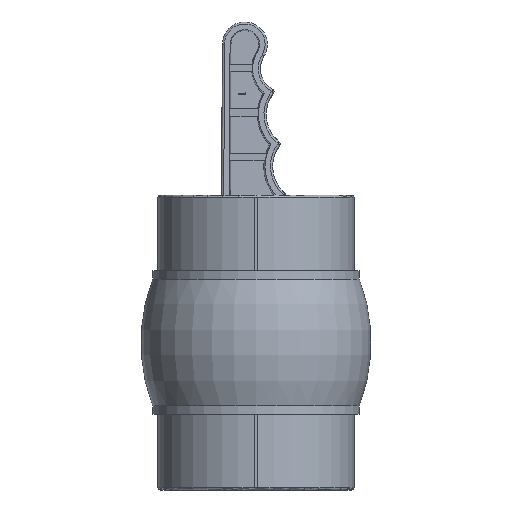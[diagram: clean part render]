
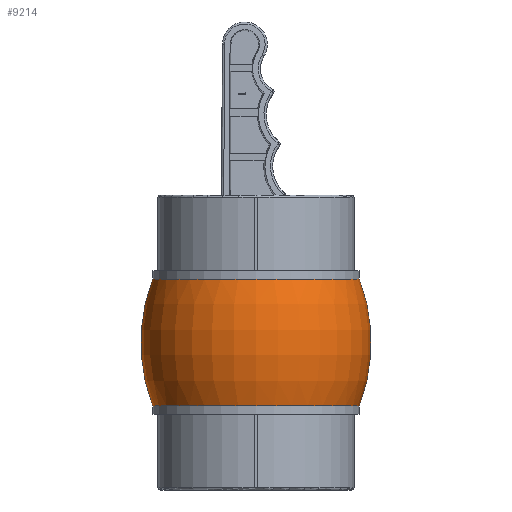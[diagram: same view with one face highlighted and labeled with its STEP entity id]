
A CAD part, front view. The second image highlights one B-rep face of the part: STEP entity #9214.
In plain terms, the highlighted toroidal (fillet/blend) face has major radius 27.589 mm and minor radius 79.089 mm.
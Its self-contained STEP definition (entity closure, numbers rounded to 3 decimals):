
#539 = CARTESIAN_POINT ( 'NONE',  ( 0., 0., 28.4 ) ) ;
#1419 = DIRECTION ( 'NONE',  ( -1., 0., 0. ) ) ;
#1862 = CARTESIAN_POINT ( 'NONE',  ( 46.225, 0., 28.4 ) ) ;
#1967 = CARTESIAN_POINT ( 'NONE',  ( 0., 0., -28.4 ) ) ;
#5607 = EDGE_CURVE ( 'NONE', #52693, #41399, #25660, .T. ) ;
#6320 = AXIS2_PLACEMENT_3D ( 'NONE', #22885, #47688, #18332 ) ;
#6515 = DIRECTION ( 'NONE',  ( 1., 0., 0. ) ) ;
#6694 = VERTEX_POINT ( 'NONE', #1862 ) ;
#7574 = FACE_OUTER_BOUND ( 'NONE', #46421, .T. ) ;
#8678 = ORIENTED_EDGE ( 'NONE', *, *, #5607, .F. ) ;
#9214 = ADVANCED_FACE ( 'NONE', ( #7574 ), #21803, .T. ) ;
#9984 = DIRECTION ( 'NONE',  ( 0., 0., 1. ) ) ;
#12012 = VERTEX_POINT ( 'NONE', #13722 ) ;
#13722 = CARTESIAN_POINT ( 'NONE',  ( 46.225, 0., -28.4 ) ) ;
#15024 = CARTESIAN_POINT ( 'NONE',  ( 0., 0., 0. ) ) ;
#15895 = ORIENTED_EDGE ( 'NONE', *, *, #48909, .F. ) ;
#17395 = CIRCLE ( 'NONE', #47237, 46.225 ) ;
#17628 = DIRECTION ( 'NONE',  ( 0., 1., 0. ) ) ;
#18332 = DIRECTION ( 'NONE',  ( 0., 0., -1. ) ) ;
#20048 = AXIS2_PLACEMENT_3D ( 'NONE', #15024, #31314, #35037 ) ;
#20169 = ORIENTED_EDGE ( 'NONE', *, *, #35700, .T. ) ;
#20819 = CARTESIAN_POINT ( 'NONE',  ( 27.589, 0., 0. ) ) ;
#21803 = TOROIDAL_SURFACE ( 'NONE', #20048, -27.589, 79.089 ) ;
#22885 = CARTESIAN_POINT ( 'NONE',  ( -27.589, 0., 0. ) ) ;
#25660 = CIRCLE ( 'NONE', #30442, 79.089 ) ;
#26367 = DIRECTION ( 'NONE',  ( 0., 0., 1. ) ) ;
#30442 = AXIS2_PLACEMENT_3D ( 'NONE', #20819, #17628, #1419 ) ;
#31314 = DIRECTION ( 'NONE',  ( 0., 0., 1. ) ) ;
#34026 = CARTESIAN_POINT ( 'NONE',  ( -46.225, 0., 28.4 ) ) ;
#35037 = DIRECTION ( 'NONE',  ( 1., 0., 0. ) ) ;
#35700 = EDGE_CURVE ( 'NONE', #52693, #12012, #51759, .T. ) ;
#37837 = DIRECTION ( 'NONE',  ( 1., 0., 0. ) ) ;
#38547 = ORIENTED_EDGE ( 'NONE', *, *, #51156, .T. ) ;
#38964 = AXIS2_PLACEMENT_3D ( 'NONE', #1967, #9984, #6515 ) ;
#41399 = VERTEX_POINT ( 'NONE', #34026 ) ;
#46421 = EDGE_LOOP ( 'NONE', ( #8678, #20169, #38547, #15895 ) ) ;
#47237 = AXIS2_PLACEMENT_3D ( 'NONE', #539, #26367, #37837 ) ;
#47688 = DIRECTION ( 'NONE',  ( 0., -1., 0. ) ) ;
#48909 = EDGE_CURVE ( 'NONE', #41399, #6694, #17395, .T. ) ;
#50566 = CIRCLE ( 'NONE', #6320, 79.089 ) ;
#51156 = EDGE_CURVE ( 'NONE', #12012, #6694, #50566, .T. ) ;
#51759 = CIRCLE ( 'NONE', #38964, 46.225 ) ;
#52693 = VERTEX_POINT ( 'NONE', #52744 ) ;
#52744 = CARTESIAN_POINT ( 'NONE',  ( -46.225, 0., -28.4 ) ) ;
